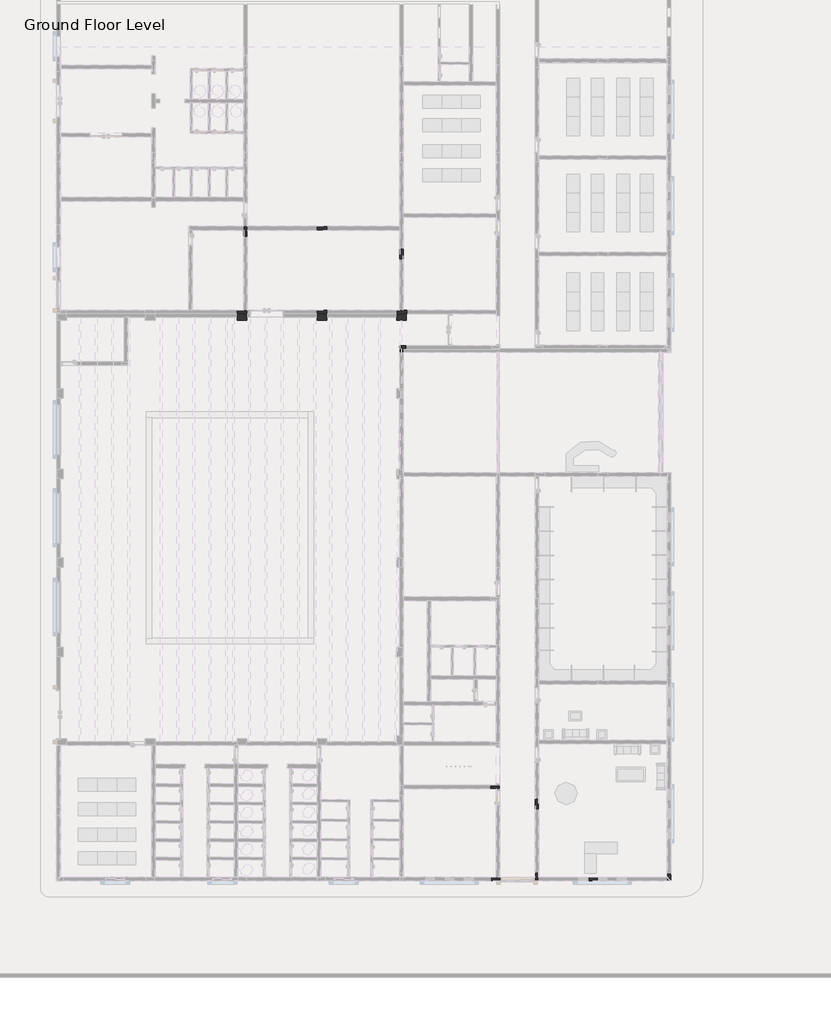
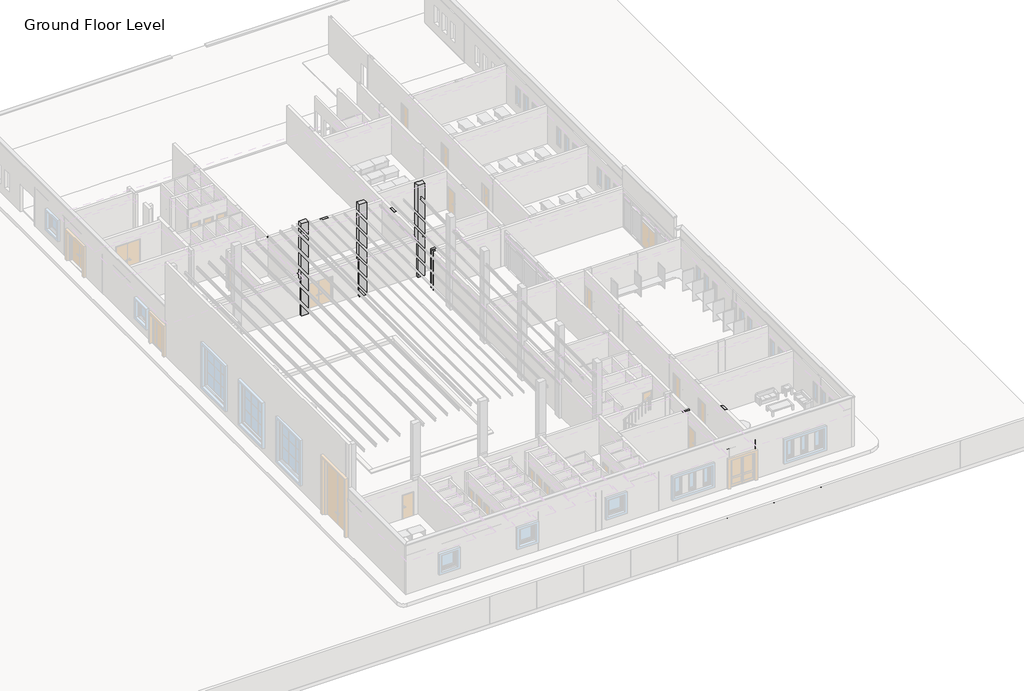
# One storey, part 15 of 23: 27 beams, 21 columns, 13 slabs.
"""IFC4 building model written with IfcOpenShell, lengths in millimetres."""

from ifc_helpers import new_model, si_unit, frame, origin, place, context, project, spatial, polyline, outline, extrude, faceted_brep, transform, mapped, element, save
from components import concrete_rectangular_c_9a02abf1

model = new_model("IFC4")

# Units and contexts
model_context = context("Model", 3, world=origin())
ifc_project = project(units=[si_unit("LENGTHUNIT", "METRE", prefix="MILLI")], contexts=[model_context])

# Site, building, storey
site = spatial("IfcSite", under=ifc_project)
building = spatial("IfcBuilding", under=site)
storey = spatial("IfcBuildingStorey", under=building, Name="Ground Floor Level", Elevation=900.0)

# Beams
placement = place(None, origin())
element("IfcBeam", 1, ObjectType="Concrete - Rectangular Beam : GB1", at=placement, inside=storey, context=model_context, shape_type="Brep", body=[
    faceted_brep([(-767.2327605, -6574.7846466, 500.0), (-767.2327605, -8354.7846466, 500.0), (-767.2327605, -8354.7846466, 600.0), (-767.2327605, -6574.7846466, 600.0), (-567.2327605, -6574.7846466, 500.0), (-567.2327605, -8134.7846466, 500.0), (-747.2327605, -8134.7846466, 500.0), (-747.2327605, -8334.7846466, 500.0), (-567.2327605, -8334.7846466, 500.0), (-567.2327605, -8354.7846466, 500.0), (-567.2327605, -6574.7846466, 600.0), (-567.2327605, -8134.7846466, 600.0), (-567.2327605, -8354.7846466, 600.0), (-567.2327605, -8334.7846466, 600.0), (-747.2327605, -8354.7846466, 600.0), (-747.2327605, -8334.7846466, 600.0), (-747.2327605, -8134.7846466, 600.0)], [[[0, 1, 2, 3]], [[1, 0, 4, 5, 6, 7, 8, 9]], [[4, 10, 11, 5]], [[12, 9, 8, 13]], [[1, 9, 12, 14, 2]], [[4, 0, 3, 10]], [[3, 2, 14, 12, 13, 15, 16, 11, 10]], [[16, 6, 5, 11]], [[7, 15, 13, 8]], [[15, 7, 6, 16]]]),
])
element("IfcBeam", 2, ObjectType="Concrete - Rectangular Beam : GB2", at=placement, inside=storey, context=model_context, shape_type="SweptSolid", body=[
    extrude(outline(polyline([(5452.7672395, -41354.7846466), (5452.7672395, -41154.7846466), (7652.7672395, -41154.7846466), (7652.7672395, -41354.7846466), (5452.7672395, -41354.7846466)])), frame((0.0, 0.0, 300.0), z_axis=(0.0, 0.0, 1.0), x_axis=(1.0, 0.0, 0.0)), (0.0, 0.0, 1.0), 300.0),
])
element("IfcBeam", 3, ObjectType="Concrete - Rectangular Beam : GB2", at=placement, inside=storey, context=model_context, shape_type="SweptSolid", body=[
    extrude(outline(polyline([(5252.7672395, -32954.7846466), (5452.7672395, -32954.7846466), (5452.7672395, -35454.7846466), (5252.7672395, -35454.7846466), (5252.7672395, -32954.7846466)])), frame((0.0, 0.0, 300.0), z_axis=(0.0, 0.0, 1.0), x_axis=(1.0, 0.0, 0.0)), (0.0, 0.0, 1.0), 300.0),
])
element("IfcBeam", 4, ObjectType="Concrete - Rectangular Beam : GB2", at=placement, inside=storey, context=model_context, shape_type="SweptSolid", body=[
    extrude(outline(polyline([(-10497.2327605, -754.7846466), (-10497.2327605, -954.7846466), (-13647.2327605, -954.7846466), (-13647.2327605, -754.7846466), (-10497.2327605, -754.7846466)])), frame((0.0, 0.0, 300.0), z_axis=(0.0, 0.0, 1.0), x_axis=(1.0, 0.0, 0.0)), (0.0, 0.0, 1.0), 300.0),
])
element("IfcBeam", 5, ObjectType="Concrete - Rectangular Beam : GB2", at=placement, inside=storey, context=model_context, shape_type="SweptSolid", body=[
    extrude(outline(polyline([(-5297.2327605, -5954.7846466), (-5497.2327605, -5954.7846466), (-5497.2327605, -954.7846466), (-5297.2327605, -954.7846466), (-5297.2327605, -5954.7846466)])), frame((0.0, 0.0, 300.0), z_axis=(0.0, 0.0, 1.0), x_axis=(1.0, 0.0, 0.0)), (0.0, 0.0, 1.0), 300.0),
])
element("IfcBeam", 6, ObjectType="Concrete - Rectangular Beam : GB2", at=placement, inside=storey, context=model_context, shape_type="Brep", body=[
    faceted_brep([(-527.2327605, -5954.7846466, 300.0), (-527.2327605, -2554.7846466, 300.0), (-527.2327605, -2354.7846466, 300.0), (-527.2327605, -2354.7846466, 600.0), (-527.2327605, -2554.7846466, 600.0), (-527.2327605, -5954.7846466, 600.0), (-547.2327605, -2754.7846466, 300.0), (-547.2327605, -2354.7846466, 300.0), (-727.2327605, -5954.7846466, 300.0), (-727.2327605, -2754.7846466, 300.0), (-727.2327605, -5954.7846466, 600.0), (-727.2327605, -2754.7846466, 600.0), (-547.2327605, -2754.7846466, 600.0), (-547.2327605, -2354.7846466, 600.0)], [[[0, 1, 2, 3, 4, 5]], [[6, 7, 2, 1, 0, 8, 9]], [[9, 8, 10, 11]], [[8, 0, 5, 10]], [[7, 6, 12, 13]], [[6, 9, 11, 12]], [[2, 7, 13, 3]], [[5, 4, 3, 13, 12, 11, 10]]]),
])
element("IfcBeam", 7, ObjectType="Concrete - Rectangular Beam : GB2", at=placement, inside=storey, context=model_context, shape_type="Brep", body=[
    faceted_brep([(-767.2327605, -8554.7846466, 300.0), (-767.2327605, -10804.7846466, 300.0), (-767.2327605, -10804.7846466, 600.0), (-767.2327605, -8554.7846466, 600.0), (-747.2327605, -8554.7846466, 300.0), (-567.2327605, -8554.7846466, 300.0), (-567.2327605, -10804.7846466, 300.0), (-567.2327605, -8554.7846466, 600.0), (-567.2327605, -10804.7846466, 600.0), (-747.2327605, -8554.7846466, 600.0)], [[[0, 1, 2, 3]], [[0, 4, 5, 6, 1]], [[6, 5, 7, 8]], [[5, 4, 0, 3, 9, 7]], [[1, 6, 8, 2]], [[3, 2, 8, 7, 9]]]),
])
element("IfcBeam", 8, ObjectType="Concrete - Rectangular Beam : GB2", at=placement, inside=storey, context=model_context, shape_type="SweptSolid", body=[
    extrude(outline(polyline([(3502.7672395, -32954.7846466), (3702.7672395, -32954.7846466), (3702.7672395, -35454.7846466), (3502.7672395, -35454.7846466), (3502.7672395, -32954.7846466)])), frame((0.0, 0.0, 300.0), z_axis=(0.0, 0.0, 1.0), x_axis=(1.0, 0.0, 0.0)), (0.0, 0.0, 1.0), 300.0),
])
element("IfcBeam", 9, ObjectType="Concrete - Rectangular Beam : GB2", at=placement, inside=storey, context=model_context, shape_type="SweptSolid", body=[
    extrude(outline(polyline([(7652.7672395, -35454.7846466), (7652.7672395, -35654.7846466), (5452.7672395, -35654.7846466), (5452.7672395, -35454.7846466), (7652.7672395, -35454.7846466)])), frame((0.0, 0.0, 300.0), z_axis=(0.0, 0.0, 1.0), x_axis=(1.0, 0.0, 0.0)), (0.0, 0.0, 1.0), 300.0),
])
element("IfcBeam", 10, ObjectType="Concrete - Rectangular Beam : GB3", at=placement, inside=storey, context=model_context, shape_type="SweptSolid", body=[
    extrude(outline(polyline([(11502.7672395, -41154.7846466), (15852.7672395, -41154.7846466), (15852.7672395, -41354.7846466), (11502.7672395, -41354.7846466), (11502.7672395, -41154.7846466)])), frame((0.0, 0.0, 300.0), z_axis=(0.0, 0.0, 1.0), x_axis=(1.0, 0.0, 0.0)), (0.0, 0.0, 1.0), 300.0),
])
element("IfcBeam", 11, ObjectType="Concrete - Rectangular Beam : GB3", at=placement, inside=storey, context=model_context, shape_type="SweptSolid", body=[
    extrude(outline(polyline([(7852.7672395, -41354.7846466), (7852.7672395, -41154.7846466), (11002.7672395, -41154.7846466), (11002.7672395, -41354.7846466), (7852.7672395, -41354.7846466)])), frame((0.0, 0.0, 300.0), z_axis=(0.0, 0.0, 1.0), x_axis=(1.0, 0.0, 0.0)), (0.0, 0.0, 1.0), 300.0),
])
element("IfcBeam", 12, ObjectType="Concrete - Rectangular Beam : GB3", at=placement, inside=storey, context=model_context, shape_type="SweptSolid", body=[
    extrude(outline(polyline([(7852.7672395, -40854.7846466), (7652.7672395, -40854.7846466), (7652.7672395, -36904.7846466), (7852.7672395, -36904.7846466), (7852.7672395, -40854.7846466)])), frame((0.0, 0.0, 300.0), z_axis=(0.0, 0.0, 1.0), x_axis=(1.0, 0.0, 0.0)), (0.0, 0.0, 1.0), 300.0),
])
element("IfcBeam", 13, ObjectType="Concrete - Rectangular Beam : GB3", at=placement, inside=storey, context=model_context, shape_type="Brep", body=[
    faceted_brep([(7852.7672395, -36304.7846466, 300.0), (7852.7672395, -33054.7846466, 300.0), (7852.7672395, -33054.7846466, 600.0), (7852.7672395, -36304.7846466, 600.0), (7652.7672395, -33054.7846466, 300.0), (7652.7672395, -36304.7846466, 300.0), (7652.7672395, -35654.7846466, 300.0), (7652.7672395, -35454.7846466, 300.0), (7652.7672395, -36304.7846466, 600.0), (7652.7672395, -35654.7846466, 600.0), (7652.7672395, -35454.7846466, 600.0), (7652.7672395, -33054.7846466, 600.0)], [[[0, 1, 2, 3]], [[4, 1, 0, 5, 6, 7]], [[4, 7, 6, 5, 8, 9, 10, 11]], [[1, 4, 11, 2]], [[5, 0, 3, 8]], [[3, 2, 11, 10, 9, 8]]]),
])
element("IfcBeam", 14, ObjectType="Concrete - Rectangular Beam : GB3", at=placement, inside=storey, context=model_context, shape_type="SweptSolid", body=[
    extrude(outline(polyline([(-10197.2327605, -954.7846466), (-10197.2327605, -754.7846466), (-5897.2327605, -754.7846466), (-5897.2327605, -954.7846466), (-10197.2327605, -954.7846466)])), frame((0.0, 0.0, 300.0), z_axis=(0.0, 0.0, 1.0), x_axis=(1.0, 0.0, 0.0)), (0.0, 0.0, 1.0), 300.0),
])
element("IfcBeam", 15, ObjectType="Concrete - Rectangular Beam : GB3", at=placement, inside=storey, context=model_context, shape_type="SweptSolid", body=[
    extrude(outline(polyline([(-747.2327605, -754.7846466), (-747.2327605, -954.7846466), (-5297.2327605, -954.7846466), (-5297.2327605, -754.7846466), (-747.2327605, -754.7846466)])), frame((0.0, 0.0, 300.0), z_axis=(0.0, 0.0, 1.0), x_axis=(1.0, 0.0, 0.0)), (0.0, 0.0, 1.0), 300.0),
])
element("IfcBeam", 16, ObjectType="Concrete - Rectangular Beam : GB3", at=placement, inside=storey, context=model_context, shape_type="SweptSolid", body=[
    extrude(outline(polyline([(-5897.2327605, -6154.7846466), (-10247.2327605, -6154.7846466), (-10247.2327605, -5954.7846466), (-5897.2327605, -5954.7846466), (-5897.2327605, -6154.7846466)])), frame((0.0, 0.0, 300.0), z_axis=(0.0, 0.0, 1.0), x_axis=(1.0, 0.0, 0.0)), (0.0, 0.0, 1.0), 300.0),
])
element("IfcBeam", 17, ObjectType="Concrete - Rectangular Beam : GB3", at=placement, inside=storey, context=model_context, shape_type="SweptSolid", body=[
    extrude(outline(polyline([(-927.2327605, -5954.7846466), (-927.2327605, -6154.7846466), (-5297.2327605, -6154.7846466), (-5297.2327605, -5954.7846466), (-927.2327605, -5954.7846466)])), frame((0.0, 0.0, 300.0), z_axis=(0.0, 0.0, 1.0), x_axis=(1.0, 0.0, 0.0)), (0.0, 0.0, 1.0), 300.0),
])
element("IfcBeam", 18, ObjectType="Concrete - Rectangular Beam : GB3", at=placement, inside=storey, context=model_context, shape_type="SweptSolid", body=[
    extrude(outline(polyline([(-15947.2327605, -6204.7846466), (-10847.2327605, -6204.7846466), (-10847.2327605, -6374.7846466), (-15947.2327605, -6374.7846466), (-15947.2327605, -6204.7846466)])), frame((0.0, 0.0, 300.0), z_axis=(0.0, 0.0, 1.0), x_axis=(1.0, 0.0, 0.0)), (0.0, 0.0, 1.0), 300.0),
])
element("IfcBeam", 19, ObjectType="Concrete - Rectangular Beam : GB3", at=placement, inside=storey, context=model_context, shape_type="SweptSolid", body=[
    extrude(outline(polyline([(-10247.2327605, -6374.7846466), (-10247.2327605, -6174.7846466), (-5897.2327605, -6174.7846466), (-5897.2327605, -6374.7846466), (-10247.2327605, -6374.7846466)])), frame((0.0, 0.0, 300.0), z_axis=(0.0, 0.0, 1.0), x_axis=(1.0, 0.0, 0.0)), (0.0, 0.0, 1.0), 300.0),
])
element("IfcBeam", 20, ObjectType="Concrete - Rectangular Beam : GB3", at=placement, inside=storey, context=model_context, shape_type="SweptSolid", body=[
    extrude(outline(polyline([(-5297.2327605, -6374.7846466), (-5297.2327605, -6174.7846466), (-947.2327605, -6174.7846466), (-947.2327605, -6374.7846466), (-5297.2327605, -6374.7846466)])), frame((0.0, 0.0, 300.0), z_axis=(0.0, 0.0, 1.0), x_axis=(1.0, 0.0, 0.0)), (0.0, 0.0, 1.0), 300.0),
])
element("IfcBeam", 21, ObjectType="Concrete - Rectangular Beam : GB4", at=placement, inside=storey, context=model_context, shape_type="SweptSolid", body=[
    extrude(outline(polyline([(4952.7672395, -41354.7846466), (-547.2327605, -41354.7846466), (-547.2327605, -41154.7846466), (4952.7672395, -41154.7846466), (4952.7672395, -41354.7846466)])), frame((0.0, 0.0, 300.0), z_axis=(0.0, 0.0, 1.0), x_axis=(1.0, 0.0, 0.0)), (0.0, 0.0, 1.0), 300.0),
])
element("IfcBeam", 22, ObjectType="Concrete - Rectangular Beam : GB4", at=placement, inside=storey, context=model_context, shape_type="SweptSolid", body=[
    extrude(outline(polyline([(5252.7672395, -35654.7846466), (5452.7672395, -35654.7846466), (5452.7672395, -41154.7846466), (5252.7672395, -41154.7846466), (5252.7672395, -35654.7846466)])), frame((0.0, 0.0, 300.0), z_axis=(0.0, 0.0, 1.0), x_axis=(1.0, 0.0, 0.0)), (0.0, 0.0, 1.0), 300.0),
])
element("IfcBeam", 23, ObjectType="Concrete - Rectangular Beam : GB4", at=placement, inside=storey, context=model_context, shape_type="SweptSolid", body=[
    extrude(outline(polyline([(-10447.2327605, -1354.7846466), (-10247.2327605, -1354.7846466), (-10247.2327605, -5904.7846466), (-10447.2327605, -5904.7846466), (-10447.2327605, -1354.7846466)])), frame((0.0, 0.0, 300.0), z_axis=(0.0, 0.0, 1.0), x_axis=(1.0, 0.0, 0.0)), (0.0, 0.0, 1.0), 300.0),
])
element("IfcBeam", 24, ObjectType="Concrete - Rectangular Beam : GB5", at=placement, inside=storey, context=model_context, shape_type="Brep", body=[
    faceted_brep([(-13647.2327605, -5904.7846466, 300.0), (-13647.2327605, -954.7846466, 300.0), (-13647.2327605, -754.7846466, 300.0), (-13647.2327605, 795.2153534, 300.0), (-13647.2327605, 795.2153534, 600.0), (-13647.2327605, -754.7846466, 600.0), (-13647.2327605, -954.7846466, 600.0), (-13647.2327605, -5904.7846466, 600.0), (-13847.2327605, 795.2153534, 300.0), (-13847.2327605, -5904.7846466, 300.0), (-13847.2327605, -5904.7846466, 600.0), (-13847.2327605, 795.2153534, 600.0)], [[[0, 1, 2, 3, 4, 5, 6, 7]], [[8, 3, 2, 1, 0, 9]], [[8, 9, 10, 11]], [[3, 8, 11, 4]], [[9, 0, 7, 10]], [[7, 6, 5, 4, 11, 10]]]),
])
element("IfcBeam", 25, ObjectType="Concrete - Rectangular Beam : GB5", at=placement, inside=storey, context=model_context, shape_type="Brep", body=[
    faceted_brep([(-547.2327605, -32954.7846466, 300.0), (3502.7672395, -32954.7846466, 300.0), (3702.7672395, -32954.7846466, 300.0), (4852.7672395, -32954.7846466, 300.0), (4852.7672395, -32954.7846466, 600.0), (3702.7672395, -32954.7846466, 600.0), (3502.7672395, -32954.7846466, 600.0), (-547.2327605, -32954.7846466, 600.0), (-547.2327605, -32754.7846466, 300.0), (1152.7672395, -32754.7846466, 300.0), (1352.7672395, -32754.7846466, 300.0), (4852.7672395, -32754.7846466, 300.0), (-547.2327605, -32754.7846466, 600.0), (1152.7672395, -32754.7846466, 600.0), (1352.7672395, -32754.7846466, 600.0), (4852.7672395, -32754.7846466, 600.0)], [[[0, 1, 2, 3, 4, 5, 6, 7]], [[0, 8, 9, 10, 11, 3, 2, 1]], [[11, 10, 9, 8, 12, 13, 14, 15]], [[8, 0, 7, 12]], [[3, 11, 15, 4]], [[7, 6, 5, 4, 15, 14, 13, 12]]]),
])
element("IfcBeam", 26, ObjectType="Concrete - Rectangular Beam : GB5", at=placement, inside=storey, context=model_context, shape_type="Brep", body=[
    faceted_brep([(-547.2327605, -35654.7846466, 300.0), (4852.7672395, -35654.7846466, 300.0), (4852.7672395, -35654.7846466, 600.0), (-547.2327605, -35654.7846466, 600.0), (-547.2327605, -35454.7846466, 300.0), (3502.7672395, -35454.7846466, 300.0), (3702.7672395, -35454.7846466, 300.0), (4852.7672395, -35454.7846466, 300.0), (-547.2327605, -35454.7846466, 600.0), (3502.7672395, -35454.7846466, 600.0), (3702.7672395, -35454.7846466, 600.0), (4852.7672395, -35454.7846466, 600.0)], [[[0, 1, 2, 3]], [[0, 4, 5, 6, 7, 1]], [[7, 6, 5, 4, 8, 9, 10, 11]], [[4, 0, 3, 8]], [[1, 7, 11, 2]], [[3, 2, 11, 10, 9, 8]]]),
])
element("IfcBeam", 27, ObjectType="Concrete - Rectangular Beam : GB6", at=placement, inside=storey, context=model_context, shape_type="Brep", body=[
    faceted_brep([(-16147.2327605, -6204.7846466, 300.0), (-15947.2327605, -6204.7846466, 300.0), (-10847.2327605, -6204.7846466, 300.0), (-10247.2327605, -6204.7846466, 300.0), (-10247.2327605, -6204.7846466, 600.0), (-10847.2327605, -6204.7846466, 600.0), (-15947.2327605, -6204.7846466, 600.0), (-16147.2327605, -6204.7846466, 600.0), (-10847.2327605, -6154.7846466, 300.0), (-10247.2327605, -6154.7846466, 300.0), (-16147.2327605, -6154.7846466, 300.0), (-15947.2327605, -6154.7846466, 300.0), (-15947.2327605, -5954.7846466, 300.0), (-16147.2327605, -5954.7846466, 300.0), (-16147.2327605, -5904.7846466, 300.0), (-15947.2327605, -5904.7846466, 300.0), (-13847.2327605, -5904.7846466, 300.0), (-13647.2327605, -5904.7846466, 300.0), (-10447.2327605, -5904.7846466, 300.0), (-10247.2327605, -5904.7846466, 300.0), (-10247.2327605, -5954.7846466, 300.0), (-10847.2327605, -5954.7846466, 300.0), (-16147.2327605, -5904.7846466, 600.0), (-15947.2327605, -5904.7846466, 600.0), (-13847.2327605, -5904.7846466, 600.0), (-13647.2327605, -5904.7846466, 600.0), (-10447.2327605, -5904.7846466, 600.0), (-10247.2327605, -5904.7846466, 600.0), (-10847.2327605, -6154.7846466, 600.0), (-10247.2327605, -6154.7846466, 600.0), (-10847.2327605, -5954.7846466, 600.0), (-10247.2327605, -5954.7846466, 600.0), (-16147.2327605, -6154.7846466, 600.0), (-15947.2327605, -6154.7846466, 600.0), (-15947.2327605, -5954.7846466, 600.0), (-16147.2327605, -5954.7846466, 600.0)], [[[0, 1, 2, 3, 4, 5, 6, 7]], [[8, 9, 3, 2, 1, 0, 10, 11, 12, 13, 14, 15, 16, 17, 18, 19, 20, 21]], [[19, 18, 17, 16, 15, 14, 22, 23, 24, 25, 26, 27]], [[9, 8, 28, 29]], [[8, 21, 30, 28]], [[21, 20, 31, 30]], [[11, 10, 32, 33]], [[13, 12, 34, 35]], [[12, 11, 33, 34]], [[3, 9, 29, 4]], [[14, 13, 35, 22]], [[20, 19, 27, 31]], [[10, 0, 7, 32]], [[7, 6, 5, 4, 29, 28, 30, 31, 27, 26, 25, 24, 23, 22, 35, 34, 33, 32]]]),
])

# Columns
concrete_rectangular_c_shape = concrete_rectangular_c_9a02abf1(model_context)
element("IfcColumn", 28, ObjectType="Concrete Rectangular : C", at=placement, inside=storey, context=model_context, shape_type="MappedRepresentation", body=[
    mapped(concrete_rectangular_c_shape, transform((13716.0532888, -47254.7846466, 0.0), x_axis=(-1.0, 0.0, 0.0), y_axis=(0.0, -1.0, 0.0), z_axis=(0.0, 0.0, 1.0))),
])
element("IfcColumn", 29, ObjectType="Concrete Rectangular : C", at=placement, inside=storey, context=model_context, shape_type="MappedRepresentation", body=[
    mapped(concrete_rectangular_c_shape, transform((9716.0532888, -47254.7846466, 0.0), x_axis=(-1.0, 0.0, 0.0), y_axis=(0.0, -1.0, 0.0), z_axis=(0.0, 0.0, 1.0))),
])
element("IfcColumn", 30, ObjectType="Concrete Rectangular : C", at=placement, inside=storey, context=model_context, shape_type="MappedRepresentation", body=[
    mapped(concrete_rectangular_c_shape, transform((5716.0532888, -47254.7846466, 0.0), x_axis=(-1.0, 0.0, 0.0), y_axis=(0.0, -1.0, 0.0), z_axis=(0.0, 0.0, 1.0))),
])
element("IfcColumn", 31, ObjectType="Concrete Rectangular : C", at=placement, inside=storey, context=model_context, shape_type="MappedRepresentation", body=[
    mapped(concrete_rectangular_c_shape, transform((1716.0532888, -47254.7846466, 0.0), x_axis=(-1.0, 0.0, 0.0), y_axis=(0.0, -1.0, 0.0), z_axis=(0.0, 0.0, 1.0))),
])
element("IfcColumn", 32, ObjectType="Concrete Rectangular : C1", at=placement, inside=storey, context=model_context, shape_type="Brep", body=[
    faceted_brep([(-747.2327605, -8354.7846466, -300.0), (-347.2327605, -8354.7846466, -300.0), (-347.2327605, -8554.7846466, -300.0), (-747.2327605, -8554.7846466, -300.0), (-347.2327605, -8354.7846466, 600.0), (-567.2327605, -8354.7846466, 600.0), (-747.2327605, -8354.7846466, 600.0), (-747.2327605, -8554.7846466, 600.0), (-567.2327605, -8554.7846466, 600.0), (-347.2327605, -8554.7846466, 600.0), (-747.2327605, -8354.7846466, 300.0), (-347.2327605, -8354.7846466, 300.0), (-347.2327605, -8554.7846466, 300.0), (-747.2327605, -8554.7846466, 300.0)], [[[0, 1, 2, 3]], [[4, 5, 6, 7, 8, 9]], [[1, 0, 10, 6, 5, 4, 11]], [[2, 1, 11, 4, 9, 12]], [[3, 2, 12, 9, 8, 7, 13]], [[0, 3, 13, 7, 6, 10]]]),
    faceted_brep([(-747.2327605, -8354.7846466, 4400.0), (-547.2327605, -8354.7846466, 4400.0), (-537.2327605, -8354.7846466, 4400.0), (-347.2327605, -8354.7846466, 4400.0), (-347.2327605, -8354.7846466, 900.0), (-537.2327605, -8354.7846466, 900.0), (-747.2327605, -8354.7846466, 900.0), (-747.2327605, -8354.7846466, 910.0), (-347.2327605, -8554.7846466, 4400.0), (-347.2327605, -8554.7846466, 900.0), (-537.2327605, -8554.7846466, 4400.0), (-547.2327605, -8554.7846466, 4400.0), (-747.2327605, -8554.7846466, 4400.0), (-747.2327605, -8554.7846466, 910.0), (-747.2327605, -8554.7846466, 900.0), (-547.2327605, -8554.7846466, 900.0)], [[[0, 1, 2, 3, 4, 5, 6, 7]], [[3, 8, 9, 4]], [[8, 10, 11, 12, 13, 14, 15, 9]], [[12, 0, 7, 6, 14, 13]], [[3, 2, 1, 0, 12, 11, 10, 8]], [[6, 5, 4, 9, 15, 14]]]),
])
element("IfcColumn", 33, ObjectType="Concrete Rectangular : C1", at=placement, inside=storey, context=model_context, shape_type="Brep", body=[
    faceted_brep([(16052.7672395, -40954.7846466, -300.0), (16052.7672395, -41354.7846466, -300.0), (15852.7672395, -41354.7846466, -300.0), (15852.7672395, -40954.7846466, -300.0), (16052.7672395, -40954.7846466, 4400.0), (16052.7672395, -41354.7846466, 4400.0), (16052.7672395, -41354.7846466, 900.0), (16052.7672395, -40954.7846466, 900.0), (15852.7672395, -41354.7846466, 4400.0), (15852.7672395, -41354.7846466, 900.0), (15852.7672395, -40954.7846466, 4400.0), (15852.7672395, -40954.7846466, 1000.0)], [[[0, 1, 2, 3]], [[4, 5, 6, 1, 0, 7]], [[5, 8, 9, 2, 1, 6]], [[8, 10, 11, 3, 2, 9]], [[10, 4, 7, 0, 3, 11]], [[4, 10, 8, 5]]]),
])
element("IfcColumn", 34, ObjectType="Concrete Rectangular : C1", at=placement, inside=storey, context=model_context, shape_type="Brep", body=[
    faceted_brep([(-747.2327605, -8134.7846466, -300.0), (-347.2327605, -8134.7846466, -300.0), (-347.2327605, -8334.7846466, -300.0), (-747.2327605, -8334.7846466, -300.0), (-347.2327605, -8134.7846466, 600.0), (-567.2327605, -8134.7846466, 600.0), (-747.2327605, -8134.7846466, 600.0), (-747.2327605, -8334.7846466, 600.0), (-567.2327605, -8334.7846466, 600.0), (-347.2327605, -8334.7846466, 600.0), (-747.2327605, -8134.7846466, 500.0), (-747.2327605, -8334.7846466, 500.0)], [[[0, 1, 2, 3]], [[4, 5, 6, 7, 8, 9]], [[1, 0, 10, 6, 5, 4]], [[2, 1, 4, 9]], [[3, 2, 9, 8, 7, 11]], [[0, 3, 11, 7, 6, 10]]]),
    faceted_brep([(-747.2327605, -8134.7846466, 4400.0), (-347.2327605, -8134.7846466, 4400.0), (-347.2327605, -8134.7846466, 910.0), (-347.2327605, -8134.7846466, 900.0), (-747.2327605, -8134.7846466, 900.0), (-347.2327605, -8334.7846466, 4400.0), (-347.2327605, -8334.7846466, 900.0), (-347.2327605, -8144.7846466, 900.0), (-537.2327605, -8334.7846466, 4400.0), (-747.2327605, -8334.7846466, 4400.0), (-747.2327605, -8334.7846466, 900.0), (-537.2327605, -8334.7846466, 900.0)], [[[0, 1, 2, 3, 4]], [[1, 5, 6, 7, 3, 2]], [[5, 8, 9, 10, 11, 6]], [[9, 0, 4, 10]], [[1, 0, 9, 8, 5]], [[4, 3, 7, 6, 11, 10]]]),
])
element("IfcColumn", 35, ObjectType="Concrete Rectangular : C2", at=placement, inside=storey, context=model_context, shape_type="Brep", body=[
    faceted_brep([(4952.7672395, -41154.7846466, -300.0), (5452.7672395, -41154.7846466, -300.0), (5452.7672395, -41354.7846466, -300.0), (4952.7672395, -41354.7846466, -300.0), (4952.7672395, -41154.7846466, 4400.0), (5452.7672395, -41154.7846466, 4400.0), (5452.7672395, -41154.7846466, 1000.0), (5452.7672395, -41154.7846466, 900.0), (4952.7672395, -41154.7846466, 900.0), (4952.7672395, -41154.7846466, 1000.0), (5452.7672395, -41354.7846466, 4400.0), (5452.7672395, -41354.7846466, 900.0), (4952.7672395, -41354.7846466, 4400.0), (4952.7672395, -41354.7846466, 900.0)], [[[0, 1, 2, 3]], [[4, 5, 6, 7, 1, 0, 8, 9]], [[5, 10, 11, 2, 1, 7, 6]], [[10, 12, 13, 3, 2, 11]], [[12, 4, 9, 8, 0, 3, 13]], [[4, 12, 10, 5]]]),
])
element("IfcColumn", 36, ObjectType="Concrete Rectangular : C2", at=placement, inside=storey, context=model_context, shape_type="Brep", body=[
    faceted_brep([(7652.7672395, -41354.7846466, -300.0), (7652.7672395, -40854.7846466, -300.0), (7852.7672395, -40854.7846466, -300.0), (7852.7672395, -41354.7846466, -300.0), (7652.7672395, -41354.7846466, 4400.0), (7652.7672395, -41144.7846466, 4400.0), (7652.7672395, -40854.7846466, 4400.0), (7652.7672395, -40854.7846466, 1000.0), (7652.7672395, -40854.7846466, 900.0), (7652.7672395, -41354.7846466, 900.0), (7852.7672395, -40854.7846466, 4400.0), (7852.7672395, -40854.7846466, 1000.0), (7852.7672395, -40854.7846466, 900.0), (7852.7672395, -41144.7846466, 4400.0), (7852.7672395, -41354.7846466, 4400.0), (7852.7672395, -41354.7846466, 900.0)], [[[0, 1, 2, 3]], [[4, 5, 6, 7, 8, 1, 0, 9]], [[6, 10, 11, 12, 2, 1, 8, 7]], [[10, 13, 14, 15, 3, 2, 12, 11]], [[14, 4, 9, 0, 3, 15]], [[4, 14, 13, 10, 6, 5]]]),
])
element("IfcColumn", 37, ObjectType="Concrete Rectangular : C2", at=placement, inside=storey, context=model_context, shape_type="Brep", body=[
    faceted_brep([(11502.7672395, -41354.7846466, -300.0), (11002.7672395, -41354.7846466, -300.0), (11002.7672395, -41154.7846466, -300.0), (11502.7672395, -41154.7846466, -300.0), (11502.7672395, -41354.7846466, 4400.0), (11002.7672395, -41354.7846466, 4400.0), (11002.7672395, -41354.7846466, 900.0), (11502.7672395, -41354.7846466, 900.0), (11002.7672395, -41154.7846466, 4400.0), (11002.7672395, -41154.7846466, 1000.0), (11002.7672395, -41154.7846466, 900.0), (11502.7672395, -41154.7846466, 4400.0), (11502.7672395, -41154.7846466, 1000.0), (11502.7672395, -41154.7846466, 900.0)], [[[0, 1, 2, 3]], [[4, 5, 6, 1, 0, 7]], [[5, 8, 9, 10, 2, 1, 6]], [[8, 11, 12, 13, 3, 2, 10, 9]], [[11, 4, 7, 0, 3, 13, 12]], [[4, 11, 8, 5]]]),
])
element("IfcColumn", 38, ObjectType="Concrete Rectangular : C3", at=placement, inside=storey, context=model_context, shape_type="Brep", body=[
    faceted_brep([(-10447.2327605, -1354.7846466, -300.0), (-10447.2327605, -754.7846466, -300.0), (-10247.2327605, -754.7846466, -300.0), (-10247.2327605, -1354.7846466, -300.0), (-10447.2327605, -1354.7846466, 4400.0), (-10447.2327605, -754.7846466, 4400.0), (-10447.2327605, -754.7846466, 900.0), (-10447.2327605, -1354.7846466, 900.0), (-10447.2327605, -1354.7846466, 1000.0), (-10247.2327605, -754.7846466, 4400.0), (-10247.2327605, -754.7846466, 1000.0), (-10247.2327605, -754.7846466, 900.0), (-10247.2327605, -1354.7846466, 4400.0), (-10247.2327605, -1354.7846466, 910.0), (-10247.2327605, -1354.7846466, 900.0)], [[[0, 1, 2, 3]], [[4, 5, 6, 1, 0, 7, 8]], [[5, 9, 10, 11, 2, 1, 6]], [[9, 12, 13, 14, 3, 2, 11, 10]], [[12, 4, 8, 7, 0, 3, 14, 13]], [[4, 12, 9, 5]]]),
])
element("IfcColumn", 39, ObjectType="Concrete Rectangular : C3", at=placement, inside=storey, context=model_context, shape_type="Brep", body=[
    faceted_brep([(-5297.2327605, -954.7846466, -300.0), (-5897.2327605, -954.7846466, -300.0), (-5897.2327605, -754.7846466, -300.0), (-5297.2327605, -754.7846466, -300.0), (-5297.2327605, -954.7846466, 4400.0), (-5897.2327605, -954.7846466, 4400.0), (-5897.2327605, -954.7846466, 910.0), (-5897.2327605, -954.7846466, 900.0), (-5297.2327605, -954.7846466, 900.0), (-5297.2327605, -954.7846466, 910.0), (-5897.2327605, -754.7846466, 4400.0), (-5897.2327605, -754.7846466, 1000.0), (-5897.2327605, -754.7846466, 900.0), (-5297.2327605, -754.7846466, 4400.0), (-5297.2327605, -754.7846466, 1000.0), (-5297.2327605, -754.7846466, 900.0)], [[[0, 1, 2, 3]], [[4, 5, 6, 7, 1, 0, 8, 9]], [[5, 10, 11, 12, 2, 1, 7, 6]], [[10, 13, 14, 15, 3, 2, 12, 11]], [[13, 4, 9, 8, 0, 3, 15, 14]], [[4, 13, 10, 5]]]),
])
element("IfcColumn", 40, ObjectType="Concrete Rectangular : C3", at=placement, inside=storey, context=model_context, shape_type="Brep", body=[
    faceted_brep([(-747.2327605, -2754.7846466, -300.0), (-747.2327605, -2154.7846466, -300.0), (-547.2327605, -2154.7846466, -300.0), (-547.2327605, -2754.7846466, -300.0), (-747.2327605, -2154.7846466, 600.0), (-747.2327605, -2754.7846466, 600.0), (-727.2327605, -2754.7846466, 600.0), (-547.2327605, -2754.7846466, 600.0), (-547.2327605, -2354.7846466, 600.0), (-547.2327605, -2154.7846466, 600.0), (-747.2327605, -2154.7846466, 300.0), (-547.2327605, -2154.7846466, 300.0), (-547.2327605, -2754.7846466, 300.0)], [[[0, 1, 2, 3]], [[4, 5, 6, 7, 8, 9]], [[1, 0, 5, 4, 10]], [[2, 1, 10, 4, 9, 11]], [[3, 2, 11, 9, 8, 7, 12]], [[0, 3, 12, 7, 6, 5]]]),
    faceted_brep([(-747.2327605, -2754.7846466, 4400.0), (-747.2327605, -2154.7846466, 4400.0), (-747.2327605, -2154.7846466, 910.0), (-747.2327605, -2154.7846466, 900.0), (-747.2327605, -2754.7846466, 900.0), (-747.2327605, -2754.7846466, 910.0), (-547.2327605, -2154.7846466, 4400.0), (-547.2327605, -2154.7846466, 1000.0), (-547.2327605, -2154.7846466, 900.0), (-547.2327605, -2754.7846466, 4400.0), (-547.2327605, -2754.7846466, 1000.0), (-547.2327605, -2754.7846466, 900.0)], [[[0, 1, 2, 3, 4, 5]], [[1, 6, 7, 8, 3, 2]], [[6, 9, 10, 11, 8, 7]], [[9, 0, 5, 4, 11, 10]], [[1, 0, 9, 6]], [[4, 3, 8, 11]]]),
])
element("IfcColumn", 41, ObjectType="Concrete Rectangular : C3", at=placement, inside=storey, context=model_context, shape_type="Brep", body=[
    faceted_brep([(-327.2327605, -6154.7846466, -300.0), (-927.2327605, -6154.7846466, -300.0), (-927.2327605, -5954.7846466, -300.0), (-327.2327605, -5954.7846466, -300.0), (-327.2327605, -6154.7846466, 4400.0), (-537.2327605, -6154.7846466, 4400.0), (-547.2327605, -6154.7846466, 4400.0), (-747.2327605, -6154.7846466, 4400.0), (-927.2327605, -6154.7846466, 4400.0), (-927.2327605, -6154.7846466, 4100.0), (-927.2327605, -6154.7846466, 900.0), (-327.2327605, -6154.7846466, 900.0), (-327.2327605, -6154.7846466, 910.0), (-927.2327605, -5954.7846466, 4400.0), (-927.2327605, -5954.7846466, 4100.0), (-927.2327605, -5954.7846466, 910.0), (-927.2327605, -5954.7846466, 900.0), (-747.2327605, -5954.7846466, 4400.0), (-537.2327605, -5954.7846466, 4400.0), (-327.2327605, -5954.7846466, 4400.0), (-327.2327605, -5954.7846466, 1000.0), (-327.2327605, -5954.7846466, 900.0)], [[[0, 1, 2, 3]], [[4, 5, 6, 7, 8, 9, 10, 1, 0, 11, 12]], [[8, 13, 14, 15, 16, 2, 1, 10, 9]], [[13, 17, 18, 19, 20, 21, 3, 2, 16, 15, 14]], [[19, 4, 12, 11, 0, 3, 21, 20]], [[4, 19, 18, 17, 13, 8, 7, 6, 5]]]),
])
element("IfcColumn", 42, ObjectType="Concrete Rectangular : C3", at=placement, inside=storey, context=model_context, shape_type="Brep", body=[
    faceted_brep([(-5297.2327605, -6154.7846466, -300.0), (-5897.2327605, -6154.7846466, -300.0), (-5897.2327605, -5954.7846466, -300.0), (-5297.2327605, -5954.7846466, -300.0), (-5297.2327605, -6154.7846466, 4400.0), (-5897.2327605, -6154.7846466, 4400.0), (-5897.2327605, -6154.7846466, 4100.0), (-5897.2327605, -6154.7846466, 900.0), (-5297.2327605, -6154.7846466, 900.0), (-5297.2327605, -6154.7846466, 4100.0), (-5897.2327605, -5954.7846466, 4400.0), (-5897.2327605, -5954.7846466, 4100.0), (-5897.2327605, -5954.7846466, 910.0), (-5897.2327605, -5954.7846466, 900.0), (-5297.2327605, -5954.7846466, 4400.0), (-5297.2327605, -5954.7846466, 4100.0), (-5297.2327605, -5954.7846466, 910.0), (-5297.2327605, -5954.7846466, 900.0)], [[[0, 1, 2, 3]], [[4, 5, 6, 7, 1, 0, 8, 9]], [[5, 10, 11, 12, 13, 2, 1, 7, 6]], [[10, 14, 15, 16, 17, 3, 2, 13, 12, 11]], [[14, 4, 9, 8, 0, 3, 17, 16, 15]], [[4, 14, 10, 5]]]),
])
element("IfcColumn", 43, ObjectType="Concrete Rectangular : C3", at=placement, inside=storey, context=model_context, shape_type="Brep", body=[
    faceted_brep([(-10247.2327605, -6154.7846466, -300.0), (-10847.2327605, -6154.7846466, -300.0), (-10847.2327605, -5954.7846466, -300.0), (-10247.2327605, -5954.7846466, -300.0), (-10847.2327605, -6154.7846466, 600.0), (-10247.2327605, -6154.7846466, 600.0), (-10247.2327605, -5954.7846466, 600.0), (-10847.2327605, -5954.7846466, 600.0), (-10247.2327605, -6154.7846466, 300.0), (-10847.2327605, -6154.7846466, 300.0), (-10847.2327605, -5954.7846466, 300.0), (-10247.2327605, -5954.7846466, 300.0)], [[[0, 1, 2, 3]], [[4, 5, 6, 7]], [[1, 0, 8, 5, 4, 9]], [[2, 1, 9, 4, 7, 10]], [[3, 2, 10, 7, 6, 11]], [[0, 3, 11, 6, 5, 8]]]),
    faceted_brep([(-10247.2327605, -6154.7846466, 4400.0), (-10847.2327605, -6154.7846466, 4400.0), (-10847.2327605, -6154.7846466, 4100.0), (-10847.2327605, -6154.7846466, 900.0), (-10247.2327605, -6154.7846466, 900.0), (-10247.2327605, -6154.7846466, 4100.0), (-10847.2327605, -5954.7846466, 4400.0), (-10847.2327605, -5954.7846466, 4100.0), (-10847.2327605, -5954.7846466, 1000.0), (-10847.2327605, -5954.7846466, 900.0), (-10247.2327605, -5954.7846466, 4400.0), (-10247.2327605, -5954.7846466, 4100.0), (-10247.2327605, -5954.7846466, 910.0), (-10247.2327605, -5954.7846466, 900.0), (-10447.2327605, -5954.7846466, 900.0)], [[[0, 1, 2, 3, 4, 5]], [[1, 6, 7, 8, 9, 3, 2]], [[6, 10, 11, 12, 13, 14, 9, 8, 7]], [[10, 0, 5, 4, 13, 12, 11]], [[1, 0, 10, 6]], [[4, 3, 9, 14, 13]]]),
])
element("IfcColumn", 44, ObjectType="Concrete Rectangular : C3", at=placement, inside=storey, context=model_context, shape_type="Brep", body=[
    faceted_brep([(7852.7672395, -36304.7846466, -300.0), (7852.7672395, -36904.7846466, -300.0), (7652.7672395, -36904.7846466, -300.0), (7652.7672395, -36304.7846466, -300.0), (7852.7672395, -36904.7846466, 600.0), (7852.7672395, -36304.7846466, 600.0), (7652.7672395, -36304.7846466, 600.0), (7652.7672395, -36904.7846466, 600.0), (7852.7672395, -36304.7846466, 300.0), (7852.7672395, -36904.7846466, 300.0), (7652.7672395, -36904.7846466, 300.0), (7652.7672395, -36304.7846466, 300.0)], [[[0, 1, 2, 3]], [[4, 5, 6, 7]], [[1, 0, 8, 5, 4, 9]], [[2, 1, 9, 4, 7, 10]], [[3, 2, 10, 7, 6, 11]], [[0, 3, 11, 6, 5, 8]]]),
    faceted_brep([(7852.7672395, -36304.7846466, 4400.0), (7852.7672395, -36904.7846466, 4400.0), (7852.7672395, -36904.7846466, 1000.0), (7852.7672395, -36904.7846466, 900.0), (7852.7672395, -36304.7846466, 900.0), (7852.7672395, -36304.7846466, 1000.0), (7652.7672395, -36904.7846466, 4400.0), (7652.7672395, -36904.7846466, 1000.0), (7652.7672395, -36904.7846466, 900.0), (7652.7672395, -36304.7846466, 4400.0), (7652.7672395, -36304.7846466, 1000.0), (7652.7672395, -36304.7846466, 900.0)], [[[0, 1, 2, 3, 4, 5]], [[1, 6, 7, 8, 3, 2]], [[6, 9, 10, 11, 8, 7]], [[9, 0, 5, 4, 11, 10]], [[1, 0, 9, 6]], [[4, 3, 8, 11]]]),
])
element("IfcColumn", 45, ObjectType="Concrete Rectangular : C3", at=placement, inside=storey, context=model_context, shape_type="Brep", body=[
    faceted_brep([(4852.7672395, -35454.7846466, -300.0), (5452.7672395, -35454.7846466, -300.0), (5452.7672395, -35654.7846466, -300.0), (4852.7672395, -35654.7846466, -300.0), (5452.7672395, -35454.7846466, 600.0), (5252.7672395, -35454.7846466, 600.0), (4852.7672395, -35454.7846466, 600.0), (4852.7672395, -35654.7846466, 600.0), (5252.7672395, -35654.7846466, 600.0), (5452.7672395, -35654.7846466, 600.0), (4852.7672395, -35454.7846466, 300.0), (5452.7672395, -35454.7846466, 300.0), (5452.7672395, -35654.7846466, 300.0), (4852.7672395, -35654.7846466, 300.0)], [[[0, 1, 2, 3]], [[4, 5, 6, 7, 8, 9]], [[1, 0, 10, 6, 5, 4, 11]], [[2, 1, 11, 4, 9, 12]], [[3, 2, 12, 9, 8, 7, 13]], [[0, 3, 13, 7, 6, 10]]]),
    faceted_brep([(4852.7672395, -35454.7846466, 4400.0), (5242.7672394, -35454.7846466, 4400.0), (5452.7672395, -35454.7846466, 4400.0), (5452.7672395, -35454.7846466, 1000.0), (5452.7672395, -35454.7846466, 900.0), (4852.7672395, -35454.7846466, 900.0), (4852.7672395, -35454.7846466, 1000.0), (5452.7672395, -35654.7846466, 4400.0), (5452.7672395, -35654.7846466, 1000.0), (5452.7672395, -35654.7846466, 900.0), (5242.7672394, -35654.7846466, 4400.0), (4852.7672395, -35654.7846466, 4400.0), (4852.7672395, -35654.7846466, 1000.0), (4852.7672395, -35654.7846466, 900.0), (5252.7672394, -35654.7846466, 900.0)], [[[0, 1, 2, 3, 4, 5, 6]], [[2, 7, 8, 9, 4, 3]], [[7, 10, 11, 12, 13, 14, 9, 8]], [[11, 0, 6, 5, 13, 12]], [[2, 1, 0, 11, 10, 7]], [[5, 4, 9, 14, 13]]]),
])
element("IfcColumn", 46, ObjectType="Concrete Rectangular : C4", at=placement, inside=storey, context=model_context, shape_type="Brep", body=[
    faceted_brep([(-10847.2327605, -6174.7846466, -300.0), (-10247.2327605, -6174.7846466, -300.0), (-10247.2327605, -6574.7846466, -300.0), (-10847.2327605, -6574.7846466, -300.0), (-10847.2327605, -6174.7846466, 9200.0), (-10247.2327605, -6174.7846466, 9200.0), (-10247.2327605, -6174.7846466, 4100.0), (-10247.2327605, -6174.7846466, 900.0), (-10847.2327605, -6174.7846466, 900.0), (-10847.2327605, -6174.7846466, 4100.0), (-10247.2327605, -6574.7846466, 9200.0), (-10847.2327605, -6574.7846466, 9200.0)], [[[0, 1, 2, 3]], [[4, 5, 6, 7, 1, 0, 8, 9]], [[5, 10, 2, 1, 7, 6]], [[10, 11, 3, 2]], [[11, 4, 9, 8, 0, 3]], [[4, 11, 10, 5]]]),
])
element("IfcColumn", 47, ObjectType="Concrete Rectangular : C4", at=placement, inside=storey, context=model_context, shape_type="Brep", body=[
    faceted_brep([(-5897.2327605, -6174.7846466, -300.0), (-5297.2327605, -6174.7846466, -300.0), (-5297.2327605, -6574.7846466, -300.0), (-5897.2327605, -6574.7846466, -300.0), (-5897.2327605, -6174.7846466, 9200.0), (-5297.2327605, -6174.7846466, 9200.0), (-5297.2327605, -6174.7846466, 4100.0), (-5297.2327605, -6174.7846466, 900.0), (-5897.2327605, -6174.7846466, 900.0), (-5897.2327605, -6174.7846466, 4100.0), (-5297.2327605, -6574.7846466, 9200.0), (-5897.2327605, -6574.7846466, 9200.0)], [[[0, 1, 2, 3]], [[4, 5, 6, 7, 1, 0, 8, 9]], [[5, 10, 2, 1, 7, 6]], [[10, 11, 3, 2]], [[11, 4, 9, 8, 0, 3]], [[4, 11, 10, 5]]]),
])
element("IfcColumn", 48, ObjectType="Concrete Rectangular : C4", at=placement, inside=storey, context=model_context, shape_type="Brep", body=[
    faceted_brep([(-347.2327605, -6574.7846466, -300.0), (-947.2327605, -6574.7846466, -300.0), (-947.2327605, -6174.7846466, -300.0), (-347.2327605, -6174.7846466, -300.0), (-947.2327605, -6574.7846466, 600.0), (-767.2327605, -6574.7846466, 600.0), (-567.2327605, -6574.7846466, 600.0), (-347.2327605, -6574.7846466, 600.0), (-347.2327605, -6174.7846466, 600.0), (-947.2327605, -6174.7846466, 600.0)], [[[0, 1, 2, 3]], [[4, 5, 6, 7, 8, 9]], [[1, 0, 7, 6, 5, 4]], [[2, 1, 4, 9]], [[3, 2, 9, 8]], [[0, 3, 8, 7]]]),
    faceted_brep([(-347.2327605, -6574.7846466, 9200.0), (-527.2327605, -6574.7846466, 9200.0), (-747.2327605, -6574.7846466, 9200.0), (-947.2327605, -6574.7846466, 9200.0), (-947.2327605, -6574.7846466, 900.0), (-347.2327605, -6574.7846466, 900.0), (-347.2327605, -6574.7846466, 4400.0), (-547.2327605, -6574.7846466, 4400.0), (-547.2327605, -6574.7846466, 4550.0), (-347.2327605, -6574.7846466, 4550.0), (-947.2327605, -6174.7846466, 9200.0), (-947.2327605, -6174.7846466, 900.0), (-747.2327605, -6174.7846466, 9200.0), (-527.2327605, -6174.7846466, 9200.0), (-347.2327605, -6174.7846466, 9200.0), (-347.2327605, -6174.7846466, 4550.0), (-547.2327605, -6174.7846466, 4550.0), (-547.2327605, -6174.7846466, 4400.0), (-347.2327605, -6174.7846466, 4400.0), (-347.2327605, -6174.7846466, 900.0)], [[[0, 1, 2, 3, 4, 5, 6, 7, 8, 9]], [[3, 10, 11, 4]], [[10, 12, 13, 14, 15, 16, 17, 18, 19, 11]], [[14, 0, 9, 15]], [[3, 2, 1, 0, 14, 13, 12, 10]], [[5, 4, 11, 19]], [[17, 7, 6, 18]], [[8, 16, 15, 9]], [[7, 17, 16, 8]], [[5, 19, 18, 6]]]),
])

# Slabs
element("IfcSlab", 49, ObjectType="Footing-Rectangular : F1", at=placement, inside=storey, context=model_context, shape_type="SweptSolid", body=[
    extrude(outline(polyline([(15352.7672395, -41854.7846466), (15352.7672395, -40454.7846466), (16552.7672395, -40454.7846466), (16552.7672395, -41854.7846466), (15352.7672395, -41854.7846466)])), frame((0.0, 0.0, -800.0), z_axis=(0.0, 0.0, 1.0), x_axis=(1.0, 0.0, 0.0)), (0.0, 0.0, 1.0), 500.0),
])
element("IfcSlab", 50, ObjectType="Footing-Rectangular : F3", at=placement, inside=storey, context=model_context, shape_type="SweptSolid", body=[
    extrude(outline(polyline([(8502.7672395, -41954.7846466), (7002.7672395, -41954.7846466), (7002.7672395, -40254.7846466), (8502.7672395, -40254.7846466), (8502.7672395, -41954.7846466)])), frame((0.0, 0.0, -800.0), z_axis=(0.0, 0.0, 1.0), x_axis=(1.0, 0.0, 0.0)), (0.0, 0.0, 1.0), 500.0),
])
element("IfcSlab", 51, ObjectType="Footing-Rectangular : F4", at=placement, inside=storey, context=model_context, shape_type="SweptSolid", body=[
    extrude(outline(polyline([(-1487.655147, -9151.9256181), (-1487.655147, -7451.9256181), (512.344853, -7451.9256181), (512.344853, -9151.9256181), (-1487.655147, -9151.9256181)])), frame((0.0, 0.0, -800.0), z_axis=(0.0, 0.0, 1.0), x_axis=(1.0, 0.0, 0.0)), (0.0, 0.0, 1.0), 500.0),
])
element("IfcSlab", 52, ObjectType="Footing-Rectangular : F4", at=placement, inside=storey, context=model_context, shape_type="SweptSolid", body=[
    extrude(outline(polyline([(12252.7672395, -40404.7846466), (12252.7672395, -42104.7846466), (10252.7672395, -42104.7846466), (10252.7672395, -40404.7846466), (12252.7672395, -40404.7846466)])), frame((0.0, 0.0, -800.0), z_axis=(0.0, 0.0, 1.0), x_axis=(1.0, 0.0, 0.0)), (0.0, 0.0, 1.0), 500.0),
])
element("IfcSlab", 53, ObjectType="Footing-Rectangular : F4", at=placement, inside=storey, context=model_context, shape_type="SweptSolid", body=[
    extrude(outline(polyline([(4202.7672395, -42104.7846466), (4202.7672395, -40404.7846466), (6202.7672395, -40404.7846466), (6202.7672395, -42104.7846466), (4202.7672395, -42104.7846466)])), frame((0.0, 0.0, -800.0), z_axis=(0.0, 0.0, 1.0), x_axis=(1.0, 0.0, 0.0)), (0.0, 0.0, 1.0), 500.0),
])
element("IfcSlab", 54, ObjectType="Footing-Rectangular : F5", at=placement, inside=storey, context=model_context, shape_type="SweptSolid", body=[
    extrude(outline(polyline([(-11697.2327605, -7214.7846466), (-11697.2327605, -5314.7846466), (-9397.2327605, -5314.7846466), (-9397.2327605, -7214.7846466), (-11697.2327605, -7214.7846466)])), frame((0.0, 0.0, -800.0), z_axis=(0.0, 0.0, 1.0), x_axis=(1.0, 0.0, 0.0)), (0.0, 0.0, 1.0), 500.0),
])
element("IfcSlab", 55, ObjectType="Footing-Rectangular : F5", at=placement, inside=storey, context=model_context, shape_type="SweptSolid", body=[
    extrude(outline(polyline([(-6747.2327605, -7214.7846466), (-6747.2327605, -5314.7846466), (-4447.2327605, -5314.7846466), (-4447.2327605, -7214.7846466), (-6747.2327605, -7214.7846466)])), frame((0.0, 0.0, -800.0), z_axis=(0.0, 0.0, 1.0), x_axis=(1.0, 0.0, 0.0)), (0.0, 0.0, 1.0), 500.0),
])
element("IfcSlab", 56, ObjectType="Footing-Rectangular : F6", at=placement, inside=storey, context=model_context, shape_type="SweptSolid", body=[
    extrude(outline(polyline([(-1897.2327605, -7314.7846466), (-1897.2327605, -5214.7846466), (602.7672395, -5214.7846466), (602.7672395, -7314.7846466), (-1897.2327605, -7314.7846466)])), frame((0.0, 0.0, -800.0), z_axis=(0.0, 0.0, 1.0), x_axis=(1.0, 0.0, 0.0)), (0.0, 0.0, 1.0), 500.0),
])
element("IfcSlab", 57, ObjectType="Footing-Rectangular : F6", at=placement, inside=storey, context=model_context, shape_type="SweptSolid", body=[
    extrude(outline(polyline([(3902.7672395, -36604.7846466), (3902.7672395, -34504.7846466), (6402.7672395, -34504.7846466), (6402.7672395, -36604.7846466), (3902.7672395, -36604.7846466)])), frame((0.0, 0.0, -800.0), z_axis=(0.0, 0.0, 1.0), x_axis=(1.0, 0.0, 0.0)), (0.0, 0.0, 1.0), 500.0),
])
element("IfcSlab", 58, ObjectType="Footing-Rectangular : F7", at=placement, inside=storey, context=model_context, shape_type="SweptSolid", body=[
    extrude(outline(polyline([(-9197.2327605, -2404.7846466), (-11497.2327605, -2404.7846466), (-11497.2327605, 295.2153534), (-9197.2327605, 295.2153534), (-9197.2327605, -2404.7846466)])), frame((0.0, 0.0, -800.0), z_axis=(0.0, 0.0, 1.0), x_axis=(1.0, 0.0, 0.0)), (0.0, 0.0, 1.0), 500.0),
])
element("IfcSlab", 59, ObjectType="Footing-Rectangular : F7", at=placement, inside=storey, context=model_context, shape_type="SweptSolid", body=[
    extrude(outline(polyline([(6602.7672395, -35254.7846466), (8902.7672395, -35254.7846466), (8902.7672395, -37954.7846466), (6602.7672395, -37954.7846466), (6602.7672395, -35254.7846466)])), frame((0.0, 0.0, -800.0), z_axis=(0.0, 0.0, 1.0), x_axis=(1.0, 0.0, 0.0)), (0.0, 0.0, 1.0), 500.0),
])
element("IfcSlab", 60, ObjectType="Footing-Rectangular : F8", at=placement, inside=storey, context=model_context, shape_type="SweptSolid", body=[
    extrude(outline(polyline([(-4147.2327605, 395.2153534), (-4147.2327605, -2104.7846466), (-7047.2327605, -2104.7846466), (-7047.2327605, 395.2153534), (-4147.2327605, 395.2153534)])), frame((0.0, 0.0, -800.0), z_axis=(0.0, 0.0, 1.0), x_axis=(1.0, 0.0, 0.0)), (0.0, 0.0, 1.0), 500.0),
])
element("IfcSlab", 61, ObjectType="Footing-Rectangular : F8", at=placement, inside=storey, context=model_context, shape_type="SweptSolid", body=[
    extrude(outline(polyline([(602.7672395, -3904.7846466), (-1897.2327605, -3904.7846466), (-1897.2327605, -1004.7846466), (602.7672395, -1004.7846466), (602.7672395, -3904.7846466)])), frame((0.0, 0.0, -800.0), z_axis=(0.0, 0.0, 1.0), x_axis=(1.0, 0.0, 0.0)), (0.0, 0.0, 1.0), 500.0),
])

save(model, "model.ifc")
